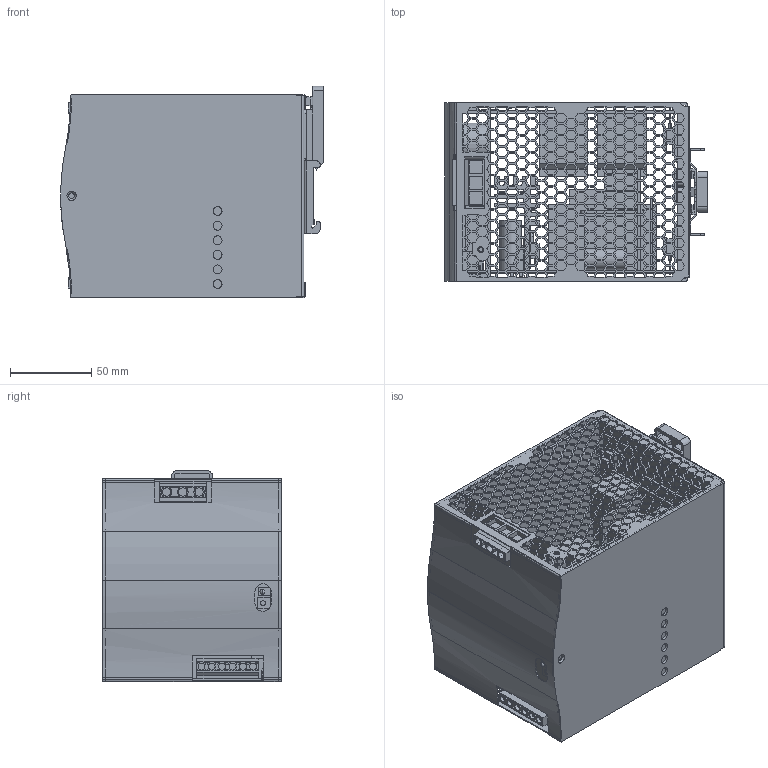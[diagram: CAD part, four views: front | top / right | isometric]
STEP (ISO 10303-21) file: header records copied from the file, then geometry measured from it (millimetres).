
FILE_DESCRIPTION(('OneSpaceDesigner STEP Export'),'2;1');
FILE_NAME('SDR-960.stp','2012-11-28T10:40:38',(''),(''),'OneSpace Designer STEP processor for AP214 (Solid Model)','OneSpace Designer 13.20 11-May-2005 (C) CoCreate Software GmbH','');
FILE_SCHEMA(('AUTOMOTIVE_DESIGN { 1 0 10303 214 1 1 1 1 }'));
Length unit declared in the file: millimetre
Products named in the file (49): ºÝ¤l2; pcb2; p3.1.1.1; ºÝ¤l; ¥ßªO; a2; PCB1.1.1.2; «p´²¼ö»É¤ù2¤ù; ¤WHS; pcb3; EE.1; MOS15.5x10.1.1.1.1.1.1.2.1; m; ¤WªO; p3.2; p2; ±¾®y; ©T©w¤ù1; ©T©w¤ù1.2; LED; VR.1; a2.1; FFF; PCB1.1.1; PCB1; DDD.1.1; pin.1.2; DDD; DOWNHS1; «á´²¼ö»É¤ù; ¤UHS; MOS15.5x10.1.1.1.1.1.1; MOS15.5x10.1.1.1.1.1.1.2; MOS; p1; 1.2; JS100107.1.1.1; ÅÜÀ£¾¹; ­Ë¼ö»É¤ù; p4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
Assembly tree (72 placements, depth 6):
  SDR-960
    ©³®y
      ©³®y.1
    a3
      uu.3
      p1.1
      µ²¦XHS
      ¤UªO
        DOWNHS2
          pin.1.2  x2
          p4
        ­Ë¼ö»É¤ù
        ÅÜÀ£¾¹
        JS100107.1.1.1
          1.2  x4
          p1
        MOS
          MOS15.5x10.1.1.1.1.1.1  x10
          MOS15.5x10.1.1.1.1.1.1.2.1
          MOS15.5x10.1.1.1.1.1.1.2
        ¤UHS
        «á´²¼ö»É¤ù
        DOWNHS1
          DDD
          pin.1.2
          DDD.1.1
        PCB1
          PCB1.1.1
          FFF
          a2.1
            VR.1
            LED
      ©T©w¤ù1.2  x2
      ©T©w¤ù1  x2
      ±¾®y
        p2
        p3.2
      ¤WªO
        EE.1  x2
        m
          MOS15.5x10.1.1.1.1.1.1.2.1  x6
        pcb3
        ¤WHS
        «p´²¼ö»É¤ù2¤ù
        PCB1.1.1.2
      a2
      ¥ßªO
        p3.1.1.1  x2
        ºÝ¤l
        pcb2
        ºÝ¤l2
Bounding box: 162 x 110.05 x 130.21 mm (x, y, z)
Volume: 685580.2 mm3; surface area: 444231.3 mm2
Topology: 57 solids, 57 shells, 6199 faces, 17603 edges, 11680 vertices
Faces by surface type: plane 5179, cylinder 811, cone 156, torus 44, bspline 9
Entity records: 182843 total; most frequent: CARTESIAN_POINT 33554, ORIENTED_EDGE 32502, DIRECTION 26788, EDGE_CURVE 16251, VECTOR 14566, LINE 14566, VERTEX_POINT 10788, EDGE_LOOP 7269
